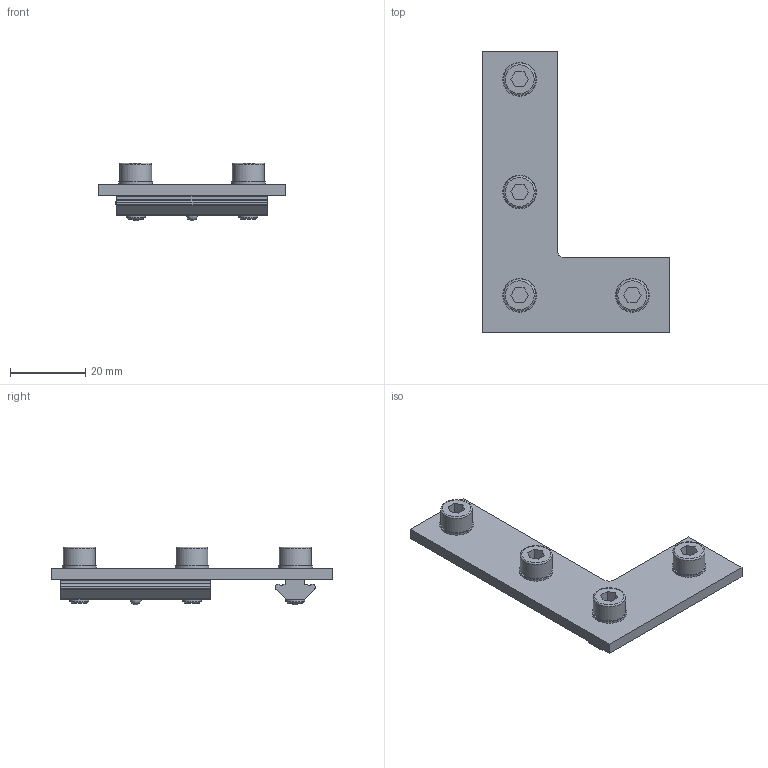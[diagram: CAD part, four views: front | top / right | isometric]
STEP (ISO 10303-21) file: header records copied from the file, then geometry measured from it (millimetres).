
FILE_DESCRIPTION(/* description */ ('L-Verbinder S-Line 75x50mm'),/* implementation_level */ '2;1');
FILE_NAME(/* name */ 'W:\Technik\Konstruktion\CAD-Daten\EOAT\GR01_\GR01.046\Aktueller Zeichnugsstand PDF--STEP\GR01.046.stp',/* time_stamp */ '2016-11-02T09:25:41+01:00',/* author */ ('DFloßmann'),/* organization */ (''),/* preprocessor_version */ 'ST-DEVELOPER v16.5',/* originating_system */ 'Autodesk Inventor 2017',/* authorisation */ '');
FILE_SCHEMA (('AUTOMOTIVE_DESIGN { 1 0 10303 214 3 1 1 }'));
Length unit declared in the file: millimetre
Products named in the file (5): Gr01.046; GR01.046-1  ; Schnorr S5; DIN912-M5x10; GR01.095A
Assembly tree (11 placements, depth 2):
  Gr01.046
    GR01.046-1  
    Schnorr S5  x4
    DIN912-M5x10  x4
    GR01.095A  x2
Bounding box: 50 x 75 x 15.39 mm (x, y, z)
Volume: 10816.6 mm3; surface area: 9727.1 mm2
Topology: 11 solids, 11 shells, 151 faces, 367 edges, 244 vertices
Faces by surface type: plane 84, cylinder 57, cone 4, torus 4, sphere 2
Full cylindrical faces by diameter (mm): 4.134 x4, 5 x4, 5.3 x4, 5.5 x4, 8.5 x4, 9 x4
Entity records: 2086 total; most frequent: DIRECTION 363, CARTESIAN_POINT 331, ORIENTED_EDGE 292, EDGE_CURVE 146, AXIS2_PLACEMENT_3D 137, VERTEX_POINT 105, EDGE_LOOP 93, LINE 89
